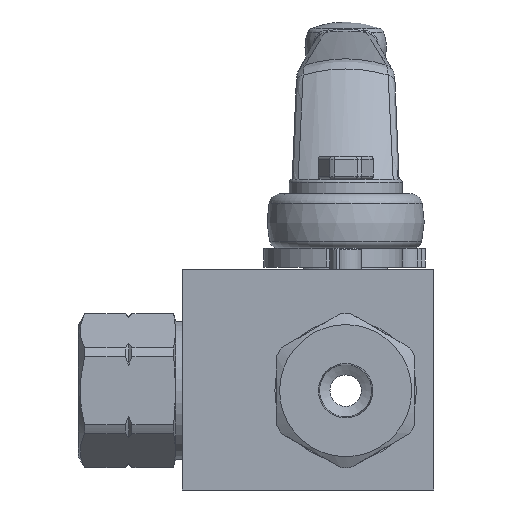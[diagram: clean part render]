
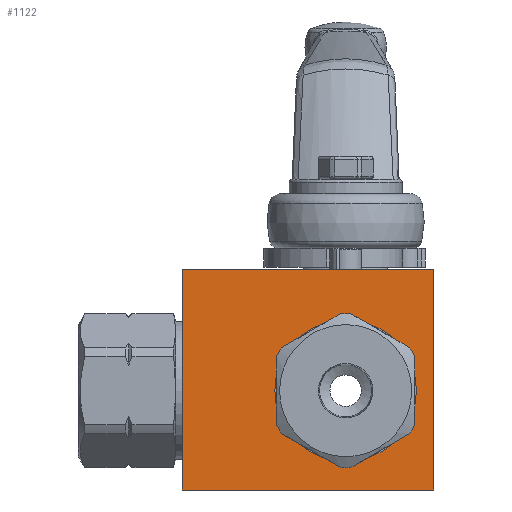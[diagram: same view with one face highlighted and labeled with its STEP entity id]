
A CAD part, front view. The second image highlights one B-rep face of the part: STEP entity #1122.
In plain terms, the highlighted planar face has unit normal (0, -1, 0).
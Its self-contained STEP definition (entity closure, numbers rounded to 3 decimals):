
#1122 = ADVANCED_FACE( '', ( #2329, #2330 ), #2331, .T. );
#2329 = FACE_OUTER_BOUND( '', #4195, .T. );
#2330 = FACE_BOUND( '', #4196, .T. );
#2331 = PLANE( '', #4197 );
#4195 = EDGE_LOOP( '', ( #7230, #7231, #7232, #7233 ) );
#4196 = EDGE_LOOP( '', ( #7234 ) );
#4197 = AXIS2_PLACEMENT_3D( '', #7235, #7236, #7237 );
#7230 = ORIENTED_EDGE( '', *, *, #9009, .T. );
#7231 = ORIENTED_EDGE( '', *, *, #9664, .T. );
#7232 = ORIENTED_EDGE( '', *, *, #9377, .T. );
#7233 = ORIENTED_EDGE( '', *, *, #9509, .T. );
#7234 = ORIENTED_EDGE( '', *, *, #8866, .T. );
#7235 = CARTESIAN_POINT( '', ( -26., -17.5, -15.8 ) );
#7236 = DIRECTION( '', ( 0., -1., 0. ) );
#7237 = DIRECTION( '', ( 0., 0., -1. ) );
#8866 = EDGE_CURVE( '', #10388, #10388, #10389, .T. );
#9009 = EDGE_CURVE( '', #10628, #10626, #10629, .T. );
#9377 = EDGE_CURVE( '', #11203, #11201, #11204, .T. );
#9509 = EDGE_CURVE( '', #11201, #10628, #11382, .T. );
#9664 = EDGE_CURVE( '', #10626, #11203, #11594, .T. );
#10388 = VERTEX_POINT( '', #12654 );
#10389 = CIRCLE( '', #12655, 11.25 );
#10626 = VERTEX_POINT( '', #13189 );
#10628 = VERTEX_POINT( '', #13192 );
#10629 = LINE( '', #13193, #13194 );
#11201 = VERTEX_POINT( '', #14493 );
#11203 = VERTEX_POINT( '', #14496 );
#11204 = LINE( '', #14497, #14498 );
#11382 = LINE( '', #14944, #14945 );
#11594 = LINE( '', #15379, #15380 );
#12654 = CARTESIAN_POINT( '', ( 11.25, -17.5, 0. ) );
#12655 = AXIS2_PLACEMENT_3D( '', #16450, #16451, #16452 );
#13189 = CARTESIAN_POINT( '', ( -26., -17.5, -15.8 ) );
#13192 = CARTESIAN_POINT( '', ( -26., -17.5, 19.2 ) );
#13193 = CARTESIAN_POINT( '', ( -26., -17.5, 19.2 ) );
#13194 = VECTOR( '', #16650, 1000. );
#14493 = CARTESIAN_POINT( '', ( 14., -17.5, 19.2 ) );
#14496 = CARTESIAN_POINT( '', ( 14., -17.5, -15.8 ) );
#14497 = CARTESIAN_POINT( '', ( 14., -17.5, -15.8 ) );
#14498 = VECTOR( '', #17063, 1000. );
#14944 = CARTESIAN_POINT( '', ( 14., -17.5, 19.2 ) );
#14945 = VECTOR( '', #17193, 1000. );
#15379 = CARTESIAN_POINT( '', ( -26., -17.5, -15.8 ) );
#15380 = VECTOR( '', #17357, 1000. );
#16450 = CARTESIAN_POINT( '', ( 0., -17.5, 0. ) );
#16451 = DIRECTION( '', ( 0., 1., 0. ) );
#16452 = DIRECTION( '', ( 1., 0., 0. ) );
#16650 = DIRECTION( '', ( 0., 0., -1. ) );
#17063 = DIRECTION( '', ( 0., 0., 1. ) );
#17193 = DIRECTION( '', ( -1., 0., 0. ) );
#17357 = DIRECTION( '', ( 1., 0., 0. ) );
